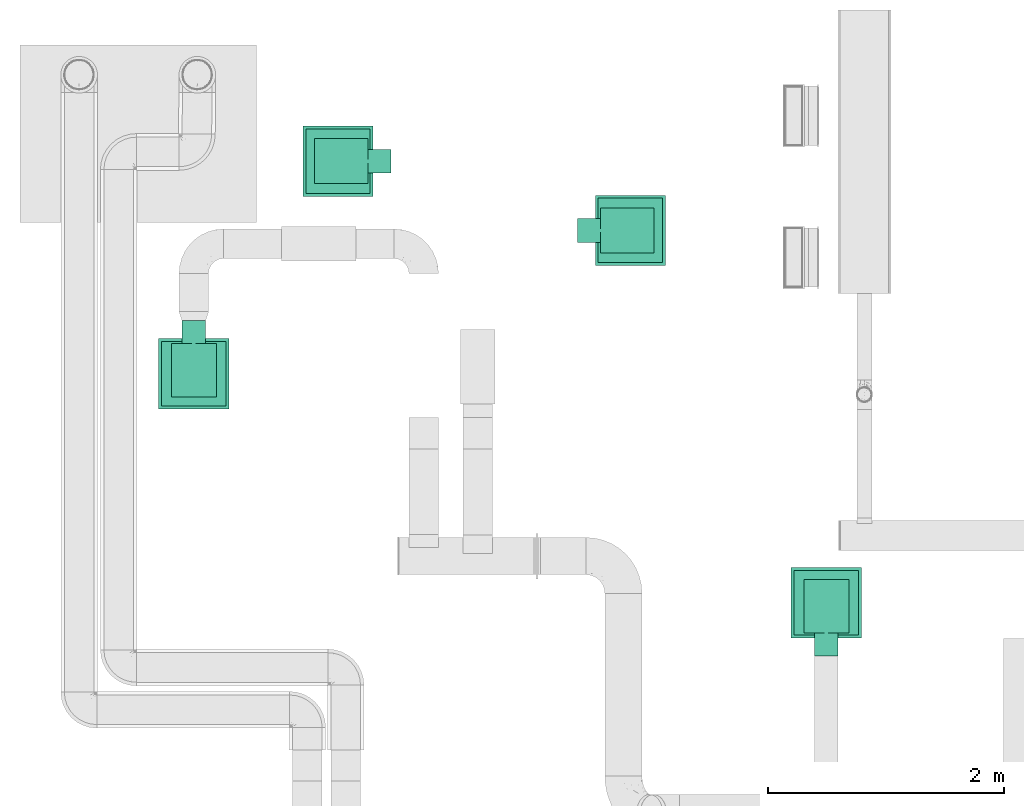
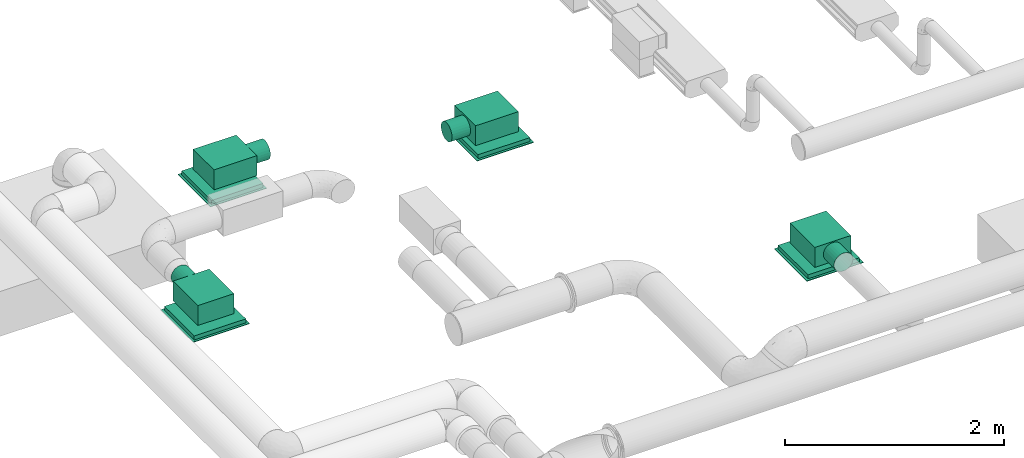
# One storey, part 6 of 36: 4 flow terminals.
"""IFC2X3 building model written with IfcOpenShell, lengths in millimetres."""

from ifc_helpers import new_model, entity, si_unit, converted_unit, derived_unit, direction, frame, origin_with_axes, place, context, subcontext, project, spatial, open_shell, surface_model, source, transform, mapped, type_object, element, save


model = new_model("IFC2X3")

# Units and contexts
model_context = context("Model", 3, precision=0.01, world=frame((0.0, 4.29681676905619e-09, 0.0)), true_north=direction((4.01073788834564e-13, 1.0)))
plan_context = context("Plan", 3, precision=0.01, world=frame((0.0, 4.29681676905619e-09, 0.0)), true_north=direction((4.01073788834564e-13, 1.0)))
body_context = subcontext(model_context, "Body", "Model", "MODEL_VIEW")
ifc_project = project(units=[converted_unit("PLANEANGLEUNIT", "DEGREE", entity("IfcPositiveLengthMeasure", 0.0174532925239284), si_unit("PLANEANGLEUNIT", "RADIAN"), dimensions=[0, 0, 0, 0, 0, 0, 0]), si_unit("AREAUNIT", "SQUARE_METRE"), si_unit("LENGTHUNIT", "METRE", prefix="MILLI"), si_unit("MASSUNIT", "GRAM", prefix="KILO"), si_unit("POWERUNIT", "WATT"), si_unit("PRESSUREUNIT", "PASCAL"), si_unit("FORCEUNIT", "NEWTON", prefix="KILO"), si_unit("ELECTRICCURRENTUNIT", "AMPERE"), si_unit("THERMODYNAMICTEMPERATUREUNIT", "DEGREE_CELSIUS"), si_unit("TIMEUNIT", "SECOND"), si_unit("VOLUMEUNIT", "CUBIC_METRE"), derived_unit("LINEARVELOCITYUNIT", [(si_unit("LENGTHUNIT", "METRE"), 1), (si_unit("TIMEUNIT", "SECOND"), -1)]), derived_unit("VOLUMETRICFLOWRATEUNIT", [(si_unit("VOLUMEUNIT", "CUBIC_METRE"), 1), (si_unit("TIMEUNIT", "SECOND"), -1)]), derived_unit("THERMALTRANSMITTANCEUNIT", [(si_unit("POWERUNIT", "WATT"), 1), (si_unit("THERMODYNAMICTEMPERATUREUNIT", "KELVIN"), -1), (si_unit("AREAUNIT", "SQUARE_METRE"), -1)])], contexts=[model_context, plan_context])

# Site, building, storey
site_placement = place(None, frame((0.0, -4.29681676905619e-09, 0.0), z_axis=(0.0, 0.0, 1.0), x_axis=(1.0, 0.0, 0.0)))
site = spatial("IfcSite", under=ifc_project, at=site_placement, CompositionType="ELEMENT")
building_placement = place(site_placement, frame((0.0, 4.29681676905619e-09, 0.0), z_axis=(0.0, 0.0, 1.0), x_axis=(1.0, 0.0, 0.0)))
building = spatial("IfcBuilding", under=site, at=building_placement, Name="mc-building", CompositionType="ELEMENT")
storey_placement = place(building_placement, frame((0.0, 0.0, 204000.0), z_axis=(0.0, 0.0, 1.0), x_axis=(1.0, 0.0, 0.0)))
storey = spatial("IfcBuildingStorey", under=building, at=storey_placement, Name="Nivå D", CompositionType="ELEMENT", Elevation=204000.0)

# Flow terminals
air_terminal_type = type_object("IfcAirTerminalType", Name="Orion-LOV-TA-250+Luna-200-250", PredefinedType="NOTDEFINED")
shared_shape_1 = source(origin_with_axes(), body_context, "Body", "SurfaceModel", [
    surface_model("IfcShellBasedSurfaceModel", [(-253.99999, 189.99999, 309.0), (-253.99999, -189.99999, 309.0), (198.0, -189.99999, 309.0), (198.0, 189.99999, 309.0), (198.0, 189.99999, 87.0), (198.0, -189.99999, 87.0), (-253.99999, -189.99999, 87.0), (-253.99999, 189.99999, 87.0), (-272.49999, 272.49999, 44.0), (-272.49999, -272.49999, 44.0), (272.49999, -272.49999, 44.0), (272.49999, 272.49999, 44.0), (272.49999, 272.49999, 0.0), (272.49999, -272.49999, 0.0), (-272.49999, -272.49999, 0.0), (-272.49999, 272.49999, 0.0), (-297.49999, 297.49999, 0.0), (-297.49999, -297.49999, 0.0), (297.49999, -297.49999, 0.0), (297.49999, 297.49999, 0.0), (297.49999, 297.49999, -6.0), (297.49999, -297.49999, -6.0), (-297.49999, -297.49999, -6.0), (-297.49999, 297.49999, -6.0), (-253.99999, 50.0, 111.39746), (-253.99999, 70.71068, 127.28932), (-253.99999, 49.9, 111.57066), (-253.99999, 25.83014, 101.6006), (-253.99999, 0.0, 98.2), (-253.99999, 25.8819, 101.40742), (-253.99999, 0.0, 98.0), (-253.99999, 70.56926, 127.43074), (-253.99999, 96.59259, 172.11809), (-253.99999, 99.8, 198.0), (-253.99999, 96.39939, 172.16985), (-253.99999, 100.0, 198.0), (-253.99999, 86.60254, 148.0), (-253.99999, 86.42934, 148.1), (-253.99999, -25.83014, 101.6006), (-253.99999, -25.8819, 101.40742), (-253.99999, -49.9, 111.57066), (-253.99999, -70.71068, 127.28932), (-253.99999, -50.0, 111.39746), (-253.99999, -70.56926, 127.43074), (-253.99999, -86.42934, 148.1), (-253.99999, -86.60254, 148.0), (-253.99999, -96.39939, 172.16985), (-253.99999, -96.59259, 172.11809), (-253.99999, -99.8, 198.0), (-253.99999, -100.0, 198.0), (-253.99999, 96.59259, 223.8819), (-253.99999, 96.39939, 223.83014), (-253.99999, 86.42934, 247.9), (-253.99999, 86.60254, 248.0), (-253.99999, 70.56926, 268.56925), (-253.99999, 70.71068, 268.71067), (-253.99999, 50.0, 284.60254), (-253.99999, 49.9, 284.42933), (-253.99999, 25.83014, 294.3994), (-253.99999, 25.8819, 294.59257), (-253.99999, 0.0, 297.79999), (-253.99999, 0.0, 298.0), (-253.99999, -86.60254, 248.0), (-253.99999, -86.42934, 247.9), (-253.99999, -70.71068, 268.71067), (-253.99999, -70.56926, 268.56925), (-253.99999, -96.59259, 223.8819), (-253.99999, -96.39939, 223.83014), (-253.99999, -25.83014, 294.3994), (-253.99999, -25.8819, 294.59257), (-253.99999, -49.9, 284.42933), (-253.99999, -50.0, 284.60254), (-448.99999, 50.0, 284.60254), (-448.99999, 70.71068, 268.71067), (-448.99999, 49.9, 284.42933), (-448.99999, 25.83014, 294.3994), (-448.99999, 0.0, 297.79999), (-448.99999, 25.8819, 294.59257), (-448.99999, 0.0, 298.0), (-448.99999, 70.56926, 268.56925), (-448.99999, 96.59259, 223.8819), (-448.99999, 99.8, 198.0), (-448.99999, 96.39939, 223.83014), (-448.99999, 100.0, 198.0), (-448.99999, 86.60254, 248.0), (-448.99999, 86.42934, 247.9), (-448.99999, -25.83014, 294.3994), (-448.99999, -25.8819, 294.59257), (-448.99999, -49.9, 284.42933), (-448.99999, -70.71068, 268.71067), (-448.99999, -50.0, 284.60254), (-448.99999, -70.56926, 268.56925), (-448.99999, -86.42934, 247.9), (-448.99999, -86.60254, 248.0), (-448.99999, -96.39939, 223.83014), (-448.99999, -96.59259, 223.8819), (-448.99999, -99.8, 198.0), (-448.99999, -100.0, 198.0), (-448.99999, 96.59259, 172.11809), (-448.99999, 96.39939, 172.16985), (-448.99999, 86.42934, 148.1), (-448.99999, 86.60254, 148.0), (-448.99999, 70.56926, 127.43074), (-448.99999, 70.71068, 127.28932), (-448.99999, 50.0, 111.39746), (-448.99999, 49.9, 111.57066), (-448.99999, 25.83014, 101.6006), (-448.99999, 25.8819, 101.40742), (-448.99999, 0.0, 98.2), (-448.99999, 0.0, 98.0), (-448.99999, -86.60254, 148.0), (-448.99999, -86.42934, 148.1), (-448.99999, -70.71068, 127.28932), (-448.99999, -70.56926, 127.43074), (-448.99999, -96.59259, 172.11809), (-448.99999, -96.39939, 172.16985), (-448.99999, -25.83014, 101.6006), (-448.99999, -25.8819, 101.40742), (-448.99999, -49.9, 111.57066), (-448.99999, -50.0, 111.39746), (63.0, -109.1192, 87.0), (89.09545, -89.09545, 87.0), (62.9, -108.94599, 87.0), (32.55944, -121.51347, 87.0), (0.0, -125.8, 87.0), (32.6112, -121.70665, 87.0), (0.0, -126.0, 87.0), (88.95404, -88.95404, 87.0), (121.70665, -32.6112, 87.0), (125.8, 0.0, 87.0), (121.51347, -32.55944, 87.0), (126.0, 0.0, 87.0), (109.1192, -63.0, 87.0), (108.94599, -62.9, 87.0), (-32.55944, -121.51347, 87.0), (-32.6112, -121.70665, 87.0), (-62.9, -108.94599, 87.0), (-89.09545, -89.09545, 87.0), (-63.0, -109.1192, 87.0), (-88.95404, -88.95404, 87.0), (-108.94599, -62.9, 87.0), (-109.1192, -63.0, 87.0), (-121.51347, -32.55944, 87.0), (-121.70665, -32.6112, 87.0), (-125.8, 0.0, 87.0), (-126.0, 0.0, 87.0), (121.70665, 32.6112, 87.0), (121.51347, 32.55944, 87.0), (108.94599, 62.9, 87.0), (109.1192, 63.0, 87.0), (88.95404, 88.95404, 87.0), (89.09545, 89.09545, 87.0), (63.0, 109.1192, 87.0), (62.9, 108.94599, 87.0), (32.55944, 121.51347, 87.0), (32.6112, 121.70665, 87.0), (0.0, 125.8, 87.0), (0.0, 126.0, 87.0), (-109.1192, 63.0, 87.0), (-108.94599, 62.9, 87.0), (-89.09545, 89.09545, 87.0), (-88.95404, 88.95404, 87.0), (-121.70665, 32.6112, 87.0), (-121.51347, 32.55944, 87.0), (-32.55944, 121.51347, 87.0), (-32.6112, 121.70665, 87.0), (-62.9, 108.94599, 87.0), (-63.0, 109.1192, 87.0), (63.0, 109.1192, 44.0), (89.09545, 89.09545, 44.0), (62.9, 108.94599, 44.0), (32.55944, 121.51347, 44.0), (0.0, 125.8, 44.0), (32.6112, 121.70665, 44.0), (0.0, 126.0, 44.0), (88.95404, 88.95404, 44.0), (121.70665, 32.6112, 44.0), (125.8, 0.0, 44.0), (121.51347, 32.55944, 44.0), (126.0, 0.0, 44.0), (109.1192, 63.0, 44.0), (108.94599, 62.9, 44.0), (-32.55944, 121.51347, 44.0), (-32.6112, 121.70665, 44.0), (-62.9, 108.94599, 44.0), (-89.09545, 89.09545, 44.0), (-63.0, 109.1192, 44.0), (-88.95404, 88.95404, 44.0), (-108.94599, 62.9, 44.0), (-109.1192, 63.0, 44.0), (-121.51347, 32.55944, 44.0), (-121.70665, 32.6112, 44.0), (-125.8, 0.0, 44.0), (-126.0, 0.0, 44.0), (121.70665, -32.6112, 44.0), (121.51347, -32.55944, 44.0), (108.94599, -62.9, 44.0), (109.1192, -63.0, 44.0), (88.95404, -88.95404, 44.0), (89.09545, -89.09545, 44.0), (63.0, -109.1192, 44.0), (62.9, -108.94599, 44.0), (32.55944, -121.51347, 44.0), (32.6112, -121.70665, 44.0), (0.0, -125.8, 44.0), (0.0, -126.0, 44.0), (-109.1192, -63.0, 44.0), (-108.94599, -62.9, 44.0), (-89.09545, -89.09545, 44.0), (-88.95404, -88.95404, 44.0), (-121.70665, -32.6112, 44.0), (-121.51347, -32.55944, 44.0), (-32.55944, -121.51347, 44.0), (-32.6112, -121.70665, 44.0), (-62.9, -108.94599, 44.0), (-63.0, -109.1192, 44.0)], [open_shell([[[0, 1, 2]], [[2, 3, 0]], [[4, 5, 6]], [[6, 7, 4]], [[2, 1, 5]], [[6, 5, 1]], [[3, 2, 4]], [[5, 4, 2]], [[0, 3, 7]], [[4, 7, 3]], [[1, 0, 6]], [[7, 6, 0]], [[8, 9, 10]], [[10, 11, 8]], [[12, 13, 14]], [[14, 15, 12]], [[10, 9, 13]], [[14, 13, 9]], [[11, 10, 12]], [[13, 12, 10]], [[8, 11, 15]], [[12, 15, 11]], [[9, 8, 14]], [[15, 14, 8]], [[16, 17, 18]], [[18, 19, 16]], [[20, 21, 22]], [[22, 23, 20]], [[18, 17, 21]], [[22, 21, 17]], [[19, 18, 20]], [[21, 20, 18]], [[16, 19, 23]], [[20, 23, 19]], [[17, 16, 22]], [[23, 22, 16]], [[24, 25, 26]], [[24, 26, 27]], [[28, 29, 27]], [[29, 28, 30]], [[27, 29, 24]], [[26, 25, 31]], [[32, 33, 34]], [[33, 32, 35]], [[32, 34, 36]], [[31, 36, 37]], [[36, 31, 25]], [[37, 36, 34]], [[30, 38, 39]], [[39, 38, 40]], [[41, 42, 43]], [[40, 42, 39]], [[40, 43, 42]], [[30, 28, 38]], [[44, 45, 41]], [[45, 44, 46]], [[44, 41, 43]], [[47, 46, 48]], [[46, 47, 45]], [[47, 48, 49]], [[35, 50, 51]], [[51, 50, 52]], [[52, 53, 54]], [[53, 52, 50]], [[54, 53, 55]], [[55, 56, 57]], [[57, 56, 58]], [[58, 59, 60]], [[59, 58, 56]], [[60, 59, 61]], [[57, 54, 55]], [[62, 63, 64]], [[64, 63, 65]], [[63, 62, 66]], [[49, 67, 66]], [[66, 67, 63]], [[49, 48, 67]], [[68, 61, 69]], [[68, 69, 70]], [[65, 71, 64]], [[65, 70, 71]], [[71, 70, 69]], [[60, 61, 68]], [[51, 33, 35]], [[72, 73, 74]], [[72, 74, 75]], [[76, 77, 75]], [[77, 76, 78]], [[75, 77, 72]], [[74, 73, 79]], [[80, 81, 82]], [[81, 80, 83]], [[80, 82, 84]], [[79, 84, 85]], [[84, 79, 73]], [[85, 84, 82]], [[78, 86, 87]], [[87, 86, 88]], [[89, 90, 91]], [[88, 90, 87]], [[88, 91, 90]], [[78, 76, 86]], [[92, 93, 89]], [[93, 92, 94]], [[92, 89, 91]], [[95, 94, 96]], [[94, 95, 93]], [[95, 96, 97]], [[83, 98, 99]], [[99, 98, 100]], [[100, 101, 102]], [[101, 100, 98]], [[102, 101, 103]], [[103, 104, 105]], [[105, 104, 106]], [[106, 107, 108]], [[107, 106, 104]], [[108, 107, 109]], [[105, 102, 103]], [[110, 111, 112]], [[112, 111, 113]], [[111, 110, 114]], [[97, 115, 114]], [[114, 115, 111]], [[97, 96, 115]], [[116, 109, 117]], [[116, 117, 118]], [[113, 119, 112]], [[113, 118, 119]], [[119, 118, 117]], [[108, 109, 116]], [[99, 81, 83]], [[47, 114, 110]], [[112, 45, 110]], [[42, 119, 117]], [[112, 119, 41]], [[39, 117, 109]], [[114, 49, 97]], [[114, 47, 49]], [[110, 45, 47]], [[112, 41, 45]], [[42, 41, 119]], [[117, 39, 42]], [[109, 30, 39]], [[29, 107, 104]], [[103, 24, 104]], [[36, 101, 98]], [[103, 101, 25]], [[32, 98, 83]], [[107, 29, 30]], [[104, 24, 29]], [[103, 25, 24]], [[101, 36, 25]], [[32, 36, 98]], [[83, 35, 32]], [[107, 30, 109]], [[83, 80, 50]], [[56, 72, 77]], [[72, 55, 73]], [[59, 77, 78]], [[83, 50, 35]], [[50, 80, 84]], [[50, 84, 53]], [[53, 84, 55]], [[55, 84, 73]], [[55, 72, 56]], [[77, 59, 56]], [[78, 61, 59]], [[69, 87, 90]], [[89, 71, 90]], [[62, 93, 95]], [[89, 93, 64]], [[66, 95, 97]], [[87, 69, 61]], [[90, 71, 69]], [[89, 64, 71]], [[93, 62, 64]], [[66, 62, 95]], [[97, 49, 66]], [[87, 61, 78]], [[111, 115, 46]], [[111, 44, 113]], [[116, 118, 40]], [[43, 118, 113]], [[108, 116, 38]], [[96, 48, 115]], [[48, 46, 115]], [[46, 44, 111]], [[44, 43, 113]], [[118, 43, 40]], [[40, 38, 116]], [[38, 28, 108]], [[105, 106, 27]], [[105, 26, 102]], [[99, 100, 37]], [[31, 100, 102]], [[81, 99, 34]], [[28, 27, 106]], [[27, 26, 105]], [[26, 31, 102]], [[31, 37, 100]], [[99, 37, 34]], [[34, 33, 81]], [[108, 28, 106]], [[51, 82, 81]], [[75, 74, 57]], [[79, 54, 74]], [[76, 75, 58]], [[33, 51, 81]], [[85, 82, 51]], [[52, 85, 51]], [[54, 85, 52]], [[79, 85, 54]], [[57, 74, 54]], [[57, 58, 75]], [[58, 60, 76]], [[88, 86, 68]], [[88, 70, 91]], [[94, 92, 63]], [[65, 92, 91]], [[96, 94, 67]], [[60, 68, 86]], [[68, 70, 88]], [[70, 65, 91]], [[65, 63, 92]], [[94, 63, 67]], [[67, 48, 96]], [[76, 60, 86]], [[120, 121, 122]], [[120, 122, 123]], [[124, 125, 123]], [[125, 124, 126]], [[123, 125, 120]], [[122, 121, 127]], [[128, 129, 130]], [[129, 128, 131]], [[128, 130, 132]], [[127, 132, 133]], [[132, 127, 121]], [[133, 132, 130]], [[126, 134, 135]], [[135, 134, 136]], [[137, 138, 139]], [[136, 138, 135]], [[136, 139, 138]], [[126, 124, 134]], [[140, 141, 137]], [[141, 140, 142]], [[140, 137, 139]], [[143, 142, 144]], [[142, 143, 141]], [[143, 144, 145]], [[131, 146, 147]], [[147, 146, 148]], [[148, 149, 150]], [[149, 148, 146]], [[150, 149, 151]], [[151, 152, 153]], [[153, 152, 154]], [[154, 155, 156]], [[155, 154, 152]], [[156, 155, 157]], [[153, 150, 151]], [[158, 159, 160]], [[160, 159, 161]], [[159, 158, 162]], [[145, 163, 162]], [[162, 163, 159]], [[145, 144, 163]], [[164, 157, 165]], [[164, 165, 166]], [[161, 167, 160]], [[161, 166, 167]], [[167, 166, 165]], [[156, 157, 164]], [[147, 129, 131]], [[168, 169, 170]], [[168, 170, 171]], [[172, 173, 171]], [[173, 172, 174]], [[171, 173, 168]], [[170, 169, 175]], [[176, 177, 178]], [[177, 176, 179]], [[176, 178, 180]], [[175, 180, 181]], [[180, 175, 169]], [[181, 180, 178]], [[174, 182, 183]], [[183, 182, 184]], [[185, 186, 187]], [[184, 186, 183]], [[184, 187, 186]], [[174, 172, 182]], [[188, 189, 185]], [[189, 188, 190]], [[188, 185, 187]], [[191, 190, 192]], [[190, 191, 189]], [[191, 192, 193]], [[179, 194, 195]], [[195, 194, 196]], [[196, 197, 198]], [[197, 196, 194]], [[198, 197, 199]], [[199, 200, 201]], [[201, 200, 202]], [[202, 203, 204]], [[203, 202, 200]], [[204, 203, 205]], [[201, 198, 199]], [[206, 207, 208]], [[208, 207, 209]], [[207, 206, 210]], [[193, 211, 210]], [[210, 211, 207]], [[193, 192, 211]], [[212, 205, 213]], [[212, 213, 214]], [[209, 215, 208]], [[209, 214, 215]], [[215, 214, 213]], [[204, 205, 212]], [[195, 177, 179]], [[210, 143, 193]], [[206, 141, 210]], [[138, 208, 215]], [[206, 208, 137]], [[135, 215, 213]], [[210, 141, 143]], [[143, 145, 193]], [[135, 138, 215]], [[137, 208, 138]], [[137, 141, 206]], [[126, 135, 213]], [[213, 205, 126]], [[203, 125, 205]], [[200, 120, 203]], [[132, 199, 197]], [[200, 199, 121]], [[128, 197, 194]], [[200, 121, 120]], [[120, 125, 203]], [[131, 128, 194]], [[132, 197, 128]], [[132, 121, 199]], [[179, 131, 194]], [[205, 125, 126]], [[176, 146, 179]], [[180, 149, 176]], [[152, 169, 168]], [[180, 169, 151]], [[155, 168, 173]], [[176, 149, 146]], [[146, 131, 179]], [[155, 152, 168]], [[151, 169, 152]], [[151, 149, 180]], [[157, 155, 173]], [[173, 174, 157]], [[165, 174, 183]], [[186, 167, 183]], [[158, 189, 191]], [[162, 191, 193]], [[186, 160, 167]], [[167, 165, 183]], [[185, 158, 160]], [[185, 189, 158]], [[158, 191, 162]], [[193, 145, 162]], [[185, 160, 186]], [[174, 165, 157]], [[192, 142, 211]], [[211, 140, 207]], [[214, 209, 136]], [[139, 209, 207]], [[212, 214, 134]], [[142, 140, 211]], [[192, 144, 142]], [[214, 136, 134]], [[136, 209, 139]], [[207, 140, 139]], [[212, 134, 124]], [[124, 204, 212]], [[204, 123, 202]], [[202, 122, 201]], [[196, 198, 133]], [[127, 198, 201]], [[195, 196, 130]], [[122, 127, 201]], [[202, 123, 122]], [[195, 130, 129]], [[130, 196, 133]], [[198, 127, 133]], [[195, 129, 177]], [[124, 123, 204]], [[177, 147, 178]], [[178, 148, 181]], [[170, 175, 153]], [[150, 175, 181]], [[171, 170, 154]], [[147, 148, 178]], [[177, 129, 147]], [[170, 153, 154]], [[153, 175, 150]], [[181, 148, 150]], [[171, 154, 156]], [[156, 172, 171]], [[182, 172, 164]], [[182, 166, 184]], [[190, 188, 159]], [[192, 190, 163]], [[166, 161, 184]], [[182, 164, 166]], [[161, 159, 187]], [[159, 188, 187]], [[163, 190, 159]], [[163, 144, 192]], [[184, 161, 187]], [[156, 164, 172]]])]),
])
flow_terminal_placement = place(storey_placement, frame((520896.54715, 415999.37871, 2381.98783999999), z_axis=(0.0, 0.0, 1.0), x_axis=(0.0, 1.0, 0.0)))
element("IfcFlowTerminal", 1, at=flow_terminal_placement, inside=storey, type_object=air_terminal_type, Name="Orion-LOV-TA-250+Luna-200-250", context=body_context, shape_type="MappedRepresentation", body=[
    mapped(shared_shape_1, transform((0.0, 0.0, 0.0), scale=1.0)),
])
shared_shape_2 = source(origin_with_axes(), body_context, "Body", "SurfaceModel", [
    surface_model("IfcShellBasedSurfaceModel", [(-253.99999, 189.99999, 309.0), (-253.99999, -189.99999, 309.0), (198.0, -189.99999, 309.0), (198.0, 189.99999, 309.0), (198.0, 189.99999, 87.0), (198.0, -189.99999, 87.0), (-253.99999, -189.99999, 87.0), (-253.99999, 189.99999, 87.0), (-272.49999, 272.49999, 44.0), (-272.49999, -272.49999, 44.0), (272.49999, -272.49999, 44.0), (272.49999, 272.49999, 44.0), (272.49999, 272.49999, 0.0), (272.49999, -272.49999, 0.0), (-272.49999, -272.49999, 0.0), (-272.49999, 272.49999, 0.0), (-297.49999, 297.49999, 0.0), (-297.49999, -297.49999, 0.0), (297.49999, -297.49999, 0.0), (297.49999, 297.49999, 0.0), (297.49999, 297.49999, -6.0), (297.49999, -297.49999, -6.0), (-297.49999, -297.49999, -6.0), (-297.49999, 297.49999, -6.0), (-253.99999, -96.59259, 172.11809), (-448.99999, -96.59259, 172.11809), (-448.99999, -86.60254, 148.0), (-448.99999, -70.71068, 127.28932), (-253.99999, -86.60254, 148.0), (-253.99999, -50.0, 111.39746), (-448.99999, -50.0, 111.39746), (-448.99999, -25.8819, 101.40742), (-253.99999, -70.71068, 127.28932), (-253.99999, -25.8819, 101.40742), (-448.99999, 0.0, 98.0), (-253.99999, -100.0, 198.0), (-448.99999, -100.0, 198.0), (-253.99999, 0.0, 98.0), (-253.99999, 25.8819, 101.40742), (-448.99999, 25.8819, 101.40742), (-448.99999, 50.0, 111.39746), (-448.99999, 70.71068, 127.28932), (-253.99999, 50.0, 111.39746), (-253.99999, 86.60254, 148.0), (-448.99999, 86.60254, 148.0), (-448.99999, 96.59259, 172.11809), (-253.99999, 70.71068, 127.28932), (-253.99999, 96.59259, 172.11809), (-448.99999, 100.0, 198.0), (-253.99999, 100.0, 198.0), (-448.99999, 96.59259, 223.8819), (-253.99999, 96.59259, 223.8819), (-253.99999, 50.0, 284.60254), (-448.99999, 50.0, 284.60254), (-448.99999, 25.8819, 294.59257), (-253.99999, 70.71068, 268.71067), (-448.99999, 70.71068, 268.71067), (-253.99999, 25.8819, 294.59257), (-448.99999, 0.0, 298.0), (-448.99999, 86.60254, 248.0), (-253.99999, 86.60254, 248.0), (-253.99999, 0.0, 298.0), (-253.99999, -25.8819, 294.59257), (-448.99999, -25.8819, 294.59257), (-448.99999, -50.0, 284.60254), (-448.99999, -70.71068, 268.71067), (-253.99999, -50.0, 284.60254), (-253.99999, -86.60254, 248.0), (-448.99999, -86.60254, 248.0), (-448.99999, -96.59259, 223.8819), (-253.99999, -70.71068, 268.71067), (-253.99999, -96.59259, 223.8819), (-109.1192, -63.0, 87.0), (-126.0, 0.0, 87.0), (-121.70665, -32.6112, 87.0), (-32.6112, -121.70665, 87.0), (-89.09545, -89.09545, 87.0), (-32.6112, 121.70665, 87.0), (-63.0, -109.1192, 87.0), (0.0, 126.0, 87.0), (-121.70665, 32.6112, 87.0), (-89.09545, 89.09545, 87.0), (-109.1192, 63.0, 87.0), (-63.0, 109.1192, 87.0), (0.0, -126.0, 87.0), (32.6112, -121.70665, 87.0), (63.0, -109.1192, 87.0), (89.09545, -89.09545, 87.0), (109.1192, -63.0, 87.0), (121.70665, -32.6112, 87.0), (126.0, 0.0, 87.0), (32.6112, 121.70665, 87.0), (121.70665, 32.6112, 87.0), (89.09545, 89.09545, 87.0), (63.0, 109.1192, 87.0), (109.1192, 63.0, 87.0), (-121.70665, -32.6112, 44.0), (-126.0, 0.0, 44.0), (-109.1192, -63.0, 44.0), (-89.09545, -89.09545, 44.0), (-63.0, -109.1192, 44.0), (-32.6112, -121.70665, 44.0), (0.0, -126.0, 44.0), (32.6112, -121.70665, 44.0), (63.0, -109.1192, 44.0), (89.09545, -89.09545, 44.0), (109.1192, -63.0, 44.0), (121.70665, -32.6112, 44.0), (126.0, 0.0, 44.0), (121.70665, 32.6112, 44.0), (109.1192, 63.0, 44.0), (89.09545, 89.09545, 44.0), (63.0, 109.1192, 44.0), (32.6112, 121.70665, 44.0), (0.0, 126.0, 44.0), (-63.0, 109.1192, 44.0), (-32.6112, 121.70665, 44.0), (-89.09545, 89.09545, 44.0), (-121.70665, 32.6112, 44.0), (-109.1192, 63.0, 44.0)], [open_shell([[[0, 1, 2]], [[2, 3, 0]], [[4, 5, 6]], [[6, 7, 4]], [[3, 2, 4]], [[5, 4, 2]], [[1, 0, 6]], [[7, 6, 0]], [[8, 9, 10]], [[10, 11, 8]], [[12, 13, 14]], [[14, 15, 12]], [[16, 17, 18]], [[18, 19, 16]], [[20, 21, 22]], [[22, 23, 20]], [[24, 25, 26]], [[27, 28, 26]], [[29, 30, 31]], [[27, 30, 32]], [[33, 31, 34]], [[25, 35, 36]], [[25, 24, 35]], [[26, 28, 24]], [[27, 32, 28]], [[29, 32, 30]], [[31, 33, 29]], [[34, 37, 33]], [[38, 39, 40]], [[41, 42, 40]], [[43, 44, 45]], [[41, 44, 46]], [[47, 45, 48]], [[39, 38, 37]], [[40, 42, 38]], [[41, 46, 42]], [[44, 43, 46]], [[47, 43, 45]], [[48, 49, 47]], [[39, 37, 34]], [[48, 50, 51]], [[52, 53, 54]], [[53, 55, 56]], [[57, 54, 58]], [[48, 51, 49]], [[51, 50, 59]], [[51, 59, 60]], [[60, 59, 55]], [[55, 59, 56]], [[55, 53, 52]], [[54, 57, 52]], [[58, 61, 57]], [[62, 63, 64]], [[65, 66, 64]], [[67, 68, 69]], [[65, 68, 70]], [[71, 69, 36]], [[63, 62, 61]], [[64, 66, 62]], [[65, 70, 66]], [[68, 67, 70]], [[71, 67, 69]], [[36, 35, 71]], [[63, 61, 58]], [[72, 73, 74]], [[75, 72, 76]], [[72, 75, 77]], [[75, 76, 78]], [[75, 79, 77]], [[80, 81, 82]], [[77, 80, 73]], [[81, 77, 83]], [[77, 81, 80]], [[73, 72, 77]], [[75, 84, 79]], [[85, 86, 87]], [[79, 85, 87]], [[88, 89, 90]], [[87, 88, 91]], [[90, 92, 88]], [[91, 93, 94]], [[91, 79, 87]], [[93, 92, 95]], [[92, 93, 91]], [[88, 92, 91]], [[85, 79, 84]], [[16, 19, 20]], [[20, 23, 16]], [[17, 16, 23]], [[23, 22, 17]], [[18, 17, 22]], [[22, 21, 18]], [[19, 18, 21]], [[21, 20, 19]], [[8, 11, 12]], [[12, 15, 8]], [[9, 8, 15]], [[15, 14, 9]], [[10, 9, 14]], [[14, 13, 10]], [[11, 10, 13]], [[13, 12, 11]], [[96, 74, 97]], [[98, 72, 96]], [[78, 99, 100]], [[98, 99, 76]], [[75, 100, 101]], [[96, 72, 74]], [[74, 73, 97]], [[75, 78, 100]], [[76, 99, 78]], [[76, 72, 98]], [[84, 75, 101]], [[101, 102, 84]], [[103, 85, 102]], [[104, 86, 103]], [[88, 105, 106]], [[104, 105, 87]], [[89, 106, 107]], [[104, 87, 86]], [[86, 85, 103]], [[90, 89, 107]], [[88, 106, 89]], [[88, 87, 105]], [[108, 90, 107]], [[102, 85, 84]], [[109, 92, 108]], [[110, 95, 109]], [[94, 111, 112]], [[110, 111, 93]], [[91, 112, 113]], [[109, 95, 92]], [[92, 90, 108]], [[91, 94, 112]], [[93, 111, 94]], [[93, 95, 110]], [[79, 91, 113]], [[113, 114, 79]], [[115, 83, 116]], [[115, 81, 83]], [[83, 77, 116]], [[114, 77, 79]], [[54, 63, 58]], [[56, 54, 53]], [[63, 54, 25]], [[56, 25, 54]], [[25, 56, 59]], [[64, 68, 65]], [[68, 64, 63]], [[68, 36, 69]], [[36, 68, 63]], [[36, 63, 25]], [[25, 59, 50]], [[39, 48, 45]], [[41, 45, 44]], [[40, 39, 45]], [[40, 45, 41]], [[48, 39, 34]], [[25, 27, 26]], [[27, 25, 30]], [[30, 34, 31]], [[25, 50, 30]], [[48, 34, 30]], [[30, 50, 48]], [[42, 37, 38]], [[47, 42, 46]], [[29, 42, 35]], [[47, 46, 43]], [[42, 47, 67]], [[37, 29, 33]], [[37, 42, 29]], [[32, 24, 28]], [[24, 32, 29]], [[29, 35, 24]], [[51, 47, 49]], [[47, 60, 55]], [[47, 55, 57]], [[47, 57, 67]], [[57, 55, 52]], [[62, 57, 61]], [[35, 67, 71]], [[42, 67, 35]], [[67, 66, 70]], [[66, 67, 62]], [[57, 62, 67]], [[60, 47, 51]], [[0, 3, 4]], [[4, 7, 0]], [[2, 1, 6]], [[6, 5, 2]], [[108, 107, 106]], [[108, 106, 105]], [[105, 104, 103]], [[108, 105, 109]], [[113, 105, 103]], [[109, 111, 110]], [[111, 109, 113]], [[111, 113, 112]], [[109, 105, 113]], [[103, 114, 113]], [[103, 102, 114]], [[96, 102, 101]], [[96, 101, 100]], [[98, 96, 100]], [[98, 100, 99]], [[102, 96, 97]], [[116, 117, 115]], [[117, 116, 97]], [[117, 118, 119]], [[118, 117, 97]], [[114, 97, 116]], [[97, 114, 102]], [[116, 77, 114]], [[82, 117, 119]], [[115, 117, 81]], [[80, 119, 118]], [[73, 80, 118]], [[82, 119, 80]], [[82, 81, 117]], [[97, 73, 118]]])]),
])
for number, where, z_axis, x_axis in (
    (2, (519240.0, 419148.84573, 2391.0), (0.0, 0.0, 1.0), (1.0, 0.0, 0.0)),
    (3, (516766.89341, 419734.69429, 2391.0), (0.0, 0.0, 1.0), (-1.0, 0.0, 0.0)),
    (4, (515547.5, 417937.29898, 2398.62929000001), (0.0, 0.0, 1.0), (0.0, -1.0, 0.0)),
):
    element("IfcFlowTerminal", number, at=place(storey_placement, frame(where, z_axis=z_axis, x_axis=x_axis)), inside=storey, type_object=air_terminal_type, Name="Orion-LOV-TA-250+Luna-200-250", context=body_context, shape_type="MappedRepresentation", body=[
        mapped(shared_shape_2, transform((0.0, 0.0, 0.0), scale=1.0)),
    ])

save(model, "model.ifc")
